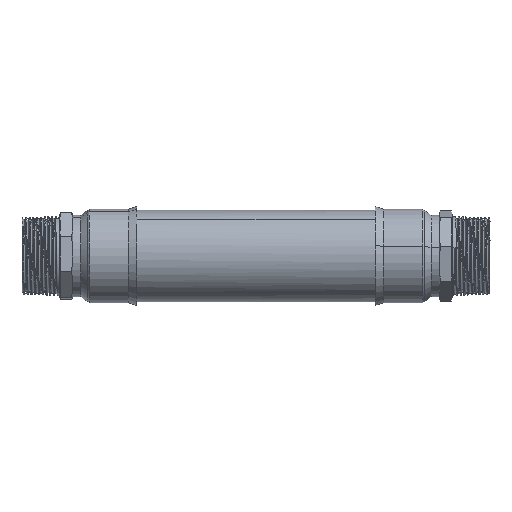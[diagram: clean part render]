
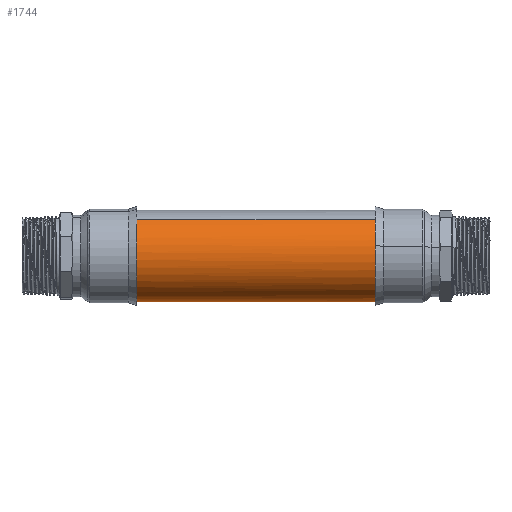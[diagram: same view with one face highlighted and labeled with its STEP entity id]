
A CAD part, front view. The second image highlights one B-rep face of the part: STEP entity #1744.
In plain terms, the highlighted cylindrical face has radius 28 mm (diameter 56 mm), a partial arc.
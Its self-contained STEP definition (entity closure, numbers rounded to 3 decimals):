
#1637 = AXIS2_PLACEMENT_3D ( 'NONE', #12279, #12275, #12281 ) ;
#1662 = CIRCLE ( 'NONE', #1665, 28. ) ;
#1665 = AXIS2_PLACEMENT_3D ( 'NONE', #6753, #6754, #6755 ) ;
#1744 = ADVANCED_FACE ( 'NONE', ( #12278 ), #12280, .T. ) ;
#4774 = CARTESIAN_POINT ( 'NONE',  ( -731.772, 9.431, 45.589 ) ) ;
#4776 = CARTESIAN_POINT ( 'NONE',  ( -731.772, -17.165, 94.074 ) ) ;
#4779 = CARTESIAN_POINT ( 'NONE',  ( -731.772, 17.165, 49.831 ) ) ;
#4815 = CARTESIAN_POINT ( 'NONE',  ( -581.344, 17.165, 49.831 ) ) ;
#4851 = CARTESIAN_POINT ( 'NONE',  ( -581.344, -17.165, 94.074 ) ) ;
#4881 = CARTESIAN_POINT ( 'NONE',  ( -581.344, -27.388, 77.776 ) ) ;
#4981 = ORIENTED_EDGE ( 'NONE', *, *, #8487, .F. ) ;
#4982 = ORIENTED_EDGE ( 'NONE', *, *, #8511, .T. ) ;
#4983 = ORIENTED_EDGE ( 'NONE', *, *, #7789, .T. ) ;
#4984 = ORIENTED_EDGE ( 'NONE', *, *, #8490, .T. ) ;
#4985 = ORIENTED_EDGE ( 'NONE', *, *, #7735, .T. ) ;
#4986 = ORIENTED_EDGE ( 'NONE', *, *, #8547, .T. ) ;
#6753 = CARTESIAN_POINT ( 'NONE',  ( -581.344, 0., 71.953 ) ) ;
#6754 = DIRECTION ( 'NONE',  ( -1., 0., 0. ) ) ;
#6755 = DIRECTION ( 'NONE',  ( 0., -1., 0. ) ) ;
#7735 = EDGE_CURVE ( 'NONE', #11871, #11937, #18626, .T. ) ;
#7789 = EDGE_CURVE ( 'NONE', #11827, #11835, #18678, .T. ) ;
#8487 = EDGE_CURVE ( 'NONE', #11831, #11907, #14776, .T. ) ;
#8490 = EDGE_CURVE ( 'NONE', #11835, #11871, #14783, .T. ) ;
#8511 = EDGE_CURVE ( 'NONE', #11831, #11827, #18737, .T. ) ;
#8547 = EDGE_CURVE ( 'NONE', #11937, #11907, #1662, .T. ) ;
#11816 = EDGE_LOOP ( 'NONE', ( #4981, #4982, #4983, #4984, #4985, #4986 ) ) ;
#11827 = VERTEX_POINT ( 'NONE', #4774 ) ;
#11831 = VERTEX_POINT ( 'NONE', #4776 ) ;
#11835 = VERTEX_POINT ( 'NONE', #4779 ) ;
#11871 = VERTEX_POINT ( 'NONE', #4815 ) ;
#11907 = VERTEX_POINT ( 'NONE', #4851 ) ;
#11937 = VERTEX_POINT ( 'NONE', #4881 ) ;
#12275 = DIRECTION ( 'NONE',  ( 1., 0., 0. ) ) ;
#12278 = FACE_OUTER_BOUND ( 'NONE', #11816, .T. ) ;
#12279 = CARTESIAN_POINT ( 'NONE',  ( -759.513, 0., 71.953 ) ) ;
#12280 = CYLINDRICAL_SURFACE ( 'NONE', #1637, 28. ) ;
#12281 = DIRECTION ( 'NONE',  ( 0., 0.613, -0.79 ) ) ;
#13996 = CARTESIAN_POINT ( 'NONE',  ( -581.344, 0., 71.953 ) ) ;
#13997 = DIRECTION ( 'NONE',  ( -1., 0., 0. ) ) ;
#13998 = DIRECTION ( 'NONE',  ( 0., -1., 0. ) ) ;
#14734 = CARTESIAN_POINT ( 'NONE',  ( -731.772, 0., 71.953 ) ) ;
#14735 = DIRECTION ( 'NONE',  ( 1., 0., 0. ) ) ;
#14736 = DIRECTION ( 'NONE',  ( 0., 0., -1. ) ) ;
#14771 = CARTESIAN_POINT ( 'NONE',  ( -759.513, -17.165, 94.074 ) ) ;
#14776 = LINE ( 'NONE', #14771, #18705 ) ;
#14782 = DIRECTION ( 'NONE',  ( 1., 0., 0. ) ) ;
#14783 = LINE ( 'NONE', #14784, #18710 ) ;
#14784 = CARTESIAN_POINT ( 'NONE',  ( -759.513, 17.165, 49.831 ) ) ;
#14793 = DIRECTION ( 'NONE',  ( 1., 0., 0. ) ) ;
#14862 = CARTESIAN_POINT ( 'NONE',  ( -731.772, 0., 71.953 ) ) ;
#14863 = DIRECTION ( 'NONE',  ( 1., 0., 0. ) ) ;
#14864 = DIRECTION ( 'NONE',  ( 0., 0., -1. ) ) ;
#18626 = CIRCLE ( 'NONE', #18630, 28. ) ;
#18630 = AXIS2_PLACEMENT_3D ( 'NONE', #13996, #13997, #13998 ) ;
#18678 = CIRCLE ( 'NONE', #18684, 28. ) ;
#18684 = AXIS2_PLACEMENT_3D ( 'NONE', #14734, #14735, #14736 ) ;
#18705 = VECTOR ( 'NONE', #14782, 1000. ) ;
#18710 = VECTOR ( 'NONE', #14793, 1000. ) ;
#18737 = CIRCLE ( 'NONE', #18740, 28. ) ;
#18740 = AXIS2_PLACEMENT_3D ( 'NONE', #14862, #14863, #14864 ) ;
